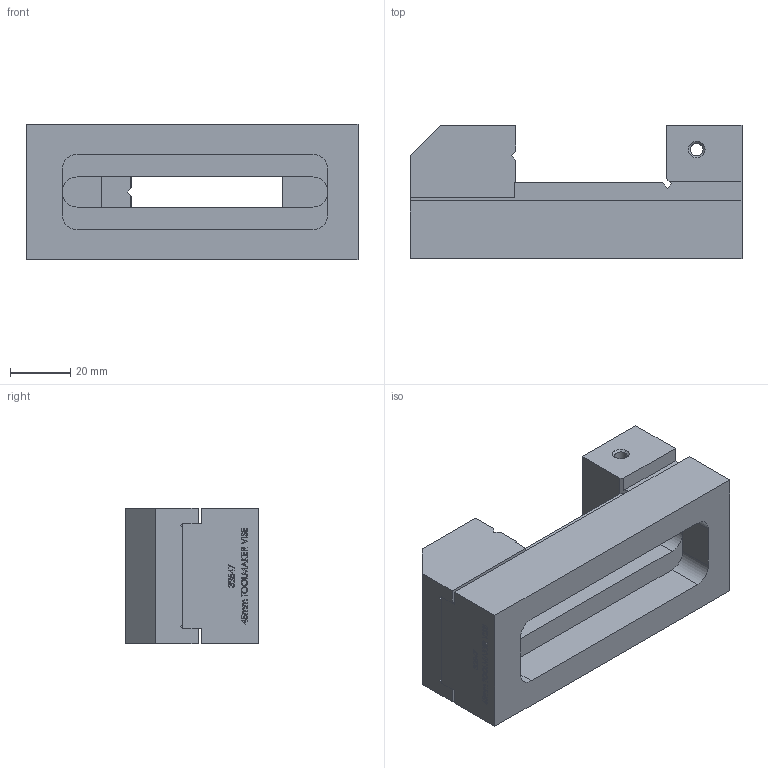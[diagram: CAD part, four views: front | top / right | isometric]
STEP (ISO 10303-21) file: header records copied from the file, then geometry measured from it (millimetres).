
FILE_DESCRIPTION (( 'STEP AP214' ), '1' );
FILE_NAME ('32547 45mm TOOLMAKER VISE.STEP', '2016-06-01T15:29:19', ( '' ), ( '' ), 'SwSTEP 2.0', 'SolidWorks 2014', '' );
FILE_SCHEMA (( 'AUTOMOTIVE_DESIGN' ));
Length unit declared in the file: millimetre
Products named in the file (1): 32547 45mm TOOLMAKER VISE
Bounding box: 110 x 44 x 45 mm (x, y, z)
Volume: 130973.9 mm3; surface area: 31953.8 mm2
Topology: 2 solids, 2 shells, 363 faces, 985 edges, 653 vertices
Faces by surface type: plane 261, bspline 90, cylinder 8, cone 4
Entity records: 19524 total; most frequent: CARTESIAN_POINT 7788, ORIENTED_EDGE 1970, DIRECTION 1375, EDGE_CURVE 985, LINE 783, VECTOR 783, VERTEX_POINT 653, EDGE_LOOP 394
